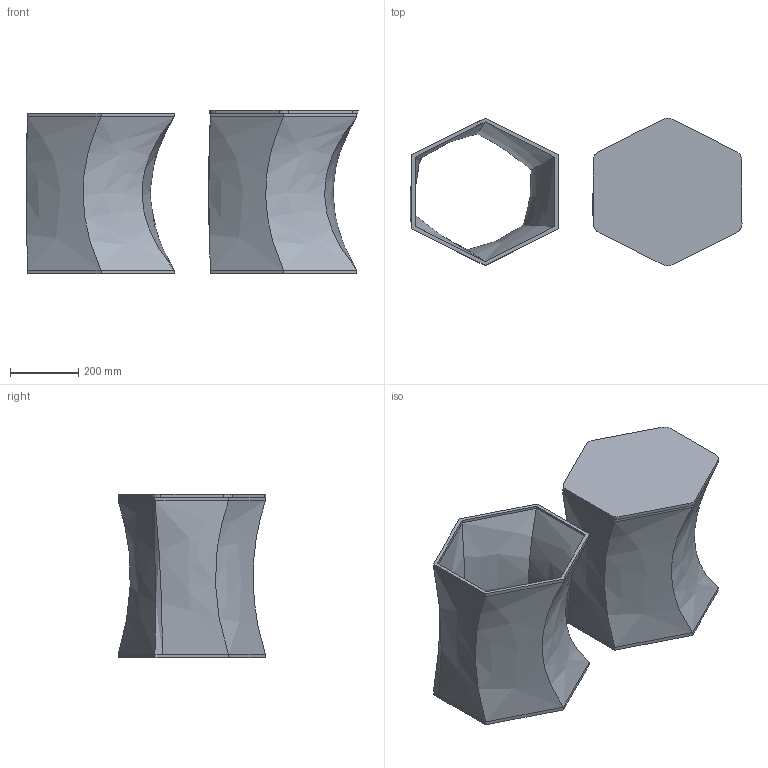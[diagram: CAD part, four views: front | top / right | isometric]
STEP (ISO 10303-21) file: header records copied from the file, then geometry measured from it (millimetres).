
FILE_DESCRIPTION(/* description */ (''),/* implementation_level */ '2;1');
FILE_NAME(/* name */ 'Petronio',/* time_stamp */ '2025-06-26T14:38:58+02:00',/* author */ (''),/* organization */ (''),/* preprocessor_version */ 'ST-DEVELOPER v16.5',/* originating_system */ 'Rhino 7.37',/* authorisation */ '');
FILE_SCHEMA (('AUTOMOTIVE_DESIGN'));
Length unit declared in the file: millimetre
Products named in the file (1): Document
Bounding box: 973.76 x 433.41 x 479.09 mm (x, y, z)
Volume: 14118288.9 mm3; surface area: 2662290.5 mm2
Topology: 3 solids, 3 shells, 107 faces, 284 edges, 184 vertices
Faces by surface type: plane 67, bspline 28, cylinder 12
Entity records: 6027 total; most frequent: CARTESIAN_POINT 4079, ORIENTED_EDGE 568, EDGE_CURVE 284, B_SPLINE_CURVE_WITH_KNOTS 260, VERTEX_POINT 184, EDGE_LOOP 112, ADVANCED_FACE 107, FACE_OUTER_BOUND 107
